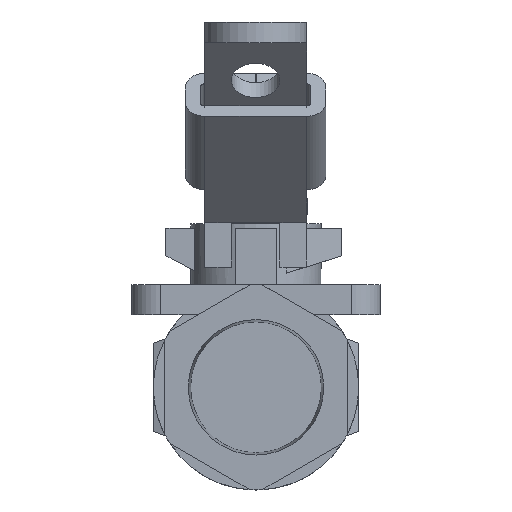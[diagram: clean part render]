
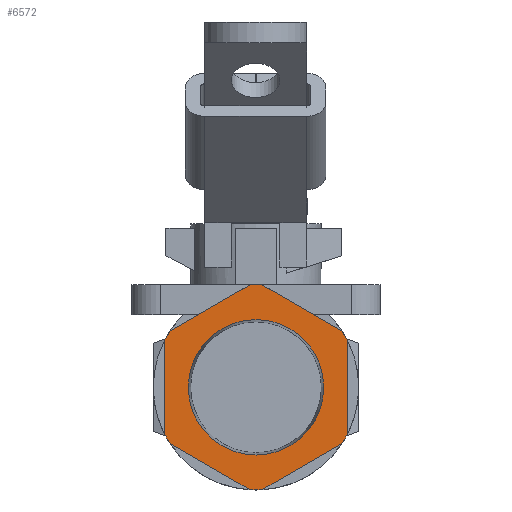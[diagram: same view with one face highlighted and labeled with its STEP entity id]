
A CAD part, left-side view. The second image highlights one B-rep face of the part: STEP entity #6572.
In plain terms, the highlighted planar face has unit normal (-1, 0, 0).
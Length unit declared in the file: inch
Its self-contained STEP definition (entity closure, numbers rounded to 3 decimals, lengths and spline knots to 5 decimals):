
#5567=CARTESIAN_POINT('',(0.0,-0.04311,0.74876));
#5568=VERTEX_POINT('',#5567);
#5575=CARTESIAN_POINT('',(0.0,-0.62689,0.41171));
#5576=VERTEX_POINT('',#5575);
#5577=CARTESIAN_POINT('',(0.,-0.04311,0.74876));
#5578=DIRECTION('',(0.,-0.866,-0.5));
#5579=VECTOR('',#5578,0.67409);
#5580=LINE('',#5577,#5579);
#5581=EDGE_CURVE('',#5568,#5576,#5580,.T.);
#5609=CARTESIAN_POINT('',(0.0,0.04311,0.74876));
#5610=VERTEX_POINT('',#5609);
#5617=CARTESIAN_POINT('',(0.0,0.0,0.0));
#5618=DIRECTION('',(-1.0,0.0,0.0));
#5619=DIRECTION('',(0.0,1.0,0.0));
#5620=AXIS2_PLACEMENT_3D('',#5617,#5618,#5619);
#5621=CIRCLE('',#5620,0.75);
#5622=EDGE_CURVE('',#5568,#5610,#5621,.T.);
#5849=CARTESIAN_POINT('',(0.0,-0.67,0.33705));
#5850=VERTEX_POINT('',#5849);
#5851=CARTESIAN_POINT('',(0.0,0.0,0.0));
#5852=DIRECTION('',(-1.0,0.0,0.0));
#5853=DIRECTION('',(0.0,1.0,0.0));
#5854=AXIS2_PLACEMENT_3D('',#5851,#5852,#5853);
#5855=CIRCLE('',#5854,0.75);
#5856=EDGE_CURVE('',#5850,#5576,#5855,.T.);
#5875=CARTESIAN_POINT('',(0.0,-0.67,-0.33705));
#5876=VERTEX_POINT('',#5875);
#5883=CARTESIAN_POINT('',(0.0,-0.62689,-0.41171));
#5884=VERTEX_POINT('',#5883);
#5885=CARTESIAN_POINT('',(0.0,0.0,0.0));
#5886=DIRECTION('',(-1.0,0.0,0.0));
#5887=DIRECTION('',(0.0,1.0,0.0));
#5888=AXIS2_PLACEMENT_3D('',#5885,#5886,#5887);
#5889=CIRCLE('',#5888,0.75);
#5890=EDGE_CURVE('',#5884,#5876,#5889,.T.);
#5909=CARTESIAN_POINT('',(0.0,-0.04311,-0.74876));
#5910=VERTEX_POINT('',#5909);
#5917=CARTESIAN_POINT('',(0.0,0.04311,-0.74876));
#5918=VERTEX_POINT('',#5917);
#5919=CARTESIAN_POINT('',(0.0,0.0,0.0));
#5920=DIRECTION('',(-1.0,0.0,0.0));
#5921=DIRECTION('',(0.0,1.0,0.0));
#5922=AXIS2_PLACEMENT_3D('',#5919,#5920,#5921);
#5923=CIRCLE('',#5922,0.75);
#5924=EDGE_CURVE('',#5918,#5910,#5923,.T.);
#5943=CARTESIAN_POINT('',(0.0,0.62689,-0.41171));
#5944=VERTEX_POINT('',#5943);
#5951=CARTESIAN_POINT('',(0.0,0.67,-0.33705));
#5952=VERTEX_POINT('',#5951);
#5953=CARTESIAN_POINT('',(0.0,0.0,0.0));
#5954=DIRECTION('',(-1.0,0.0,0.0));
#5955=DIRECTION('',(0.0,1.0,0.0));
#5956=AXIS2_PLACEMENT_3D('',#5953,#5954,#5955);
#5957=CIRCLE('',#5956,0.75);
#5958=EDGE_CURVE('',#5952,#5944,#5957,.T.);
#5977=CARTESIAN_POINT('',(0.0,0.67,0.33705));
#5978=VERTEX_POINT('',#5977);
#5985=CARTESIAN_POINT('',(0.0,0.62689,0.41171));
#5986=VERTEX_POINT('',#5985);
#5987=CARTESIAN_POINT('',(0.0,0.0,0.0));
#5988=DIRECTION('',(-1.0,0.0,0.0));
#5989=DIRECTION('',(0.0,1.0,0.0));
#5990=AXIS2_PLACEMENT_3D('',#5987,#5988,#5989);
#5991=CIRCLE('',#5990,0.75);
#5992=EDGE_CURVE('',#5986,#5978,#5991,.T.);
#6403=CARTESIAN_POINT('',(0.0,0.49452,0.0));
#6404=VERTEX_POINT('',#6403);
#6405=CARTESIAN_POINT('',(0.0,0.0,0.0));
#6406=DIRECTION('',(1.0,0.0,0.0));
#6407=DIRECTION('',(0.0,1.0,0.0));
#6408=AXIS2_PLACEMENT_3D('',#6405,#6406,#6407);
#6409=CIRCLE('',#6408,0.49452);
#6410=EDGE_CURVE('',#6404,#6404,#6409,.T.);
#6519=CARTESIAN_POINT('',(0.,-0.67,0.33705));
#6520=DIRECTION('',(0.0,0.0,-1.0));
#6521=VECTOR('',#6520,0.67409);
#6522=LINE('',#6519,#6521);
#6523=EDGE_CURVE('',#5850,#5876,#6522,.T.);
#6530=CARTESIAN_POINT('',(0.0,0.0,0.));
#6531=DIRECTION('',(1.0,0.0,0.0));
#6532=DIRECTION('',(0.0,0.0,-1.0));
#6533=AXIS2_PLACEMENT_3D('',#6530,#6531,#6532);
#6534=PLANE('',#6533);
#6535=ORIENTED_EDGE('',*,*,#5856,.T.);
#6536=ORIENTED_EDGE('',*,*,#5581,.F.);
#6537=ORIENTED_EDGE('',*,*,#5622,.T.);
#6538=CARTESIAN_POINT('',(0.,0.62689,0.41171));
#6539=DIRECTION('',(0.,-0.866,0.5));
#6540=VECTOR('',#6539,0.67409);
#6541=LINE('',#6538,#6540);
#6542=EDGE_CURVE('',#5986,#5610,#6541,.T.);
#6543=ORIENTED_EDGE('',*,*,#6542,.F.);
#6544=ORIENTED_EDGE('',*,*,#5992,.T.);
#6545=CARTESIAN_POINT('',(0.,0.67,-0.33705));
#6546=DIRECTION('',(0.0,0.0,1.0));
#6547=VECTOR('',#6546,0.67409);
#6548=LINE('',#6545,#6547);
#6549=EDGE_CURVE('',#5952,#5978,#6548,.T.);
#6550=ORIENTED_EDGE('',*,*,#6549,.F.);
#6551=ORIENTED_EDGE('',*,*,#5958,.T.);
#6552=CARTESIAN_POINT('',(0.,0.04311,-0.74876));
#6553=DIRECTION('',(0.,0.866,0.5));
#6554=VECTOR('',#6553,0.67409);
#6555=LINE('',#6552,#6554);
#6556=EDGE_CURVE('',#5918,#5944,#6555,.T.);
#6557=ORIENTED_EDGE('',*,*,#6556,.F.);
#6558=ORIENTED_EDGE('',*,*,#5924,.T.);
#6559=CARTESIAN_POINT('',(0.,-0.62689,-0.41171));
#6560=DIRECTION('',(0.,0.866,-0.5));
#6561=VECTOR('',#6560,0.67409);
#6562=LINE('',#6559,#6561);
#6563=EDGE_CURVE('',#5884,#5910,#6562,.T.);
#6564=ORIENTED_EDGE('',*,*,#6563,.F.);
#6565=ORIENTED_EDGE('',*,*,#5890,.T.);
#6566=ORIENTED_EDGE('',*,*,#6523,.F.);
#6567=EDGE_LOOP('',(#6535,#6536,#6537,#6543,#6544,#6550,#6551,#6557,#6558,#6564,#6565,#6566));
#6568=FACE_OUTER_BOUND('',#6567,.T.);
#6569=ORIENTED_EDGE('',*,*,#6410,.T.);
#6570=EDGE_LOOP('',(#6569));
#6571=FACE_BOUND('',#6570,.T.);
#6572=ADVANCED_FACE('',(#6568,#6571),#6534,.F.);
